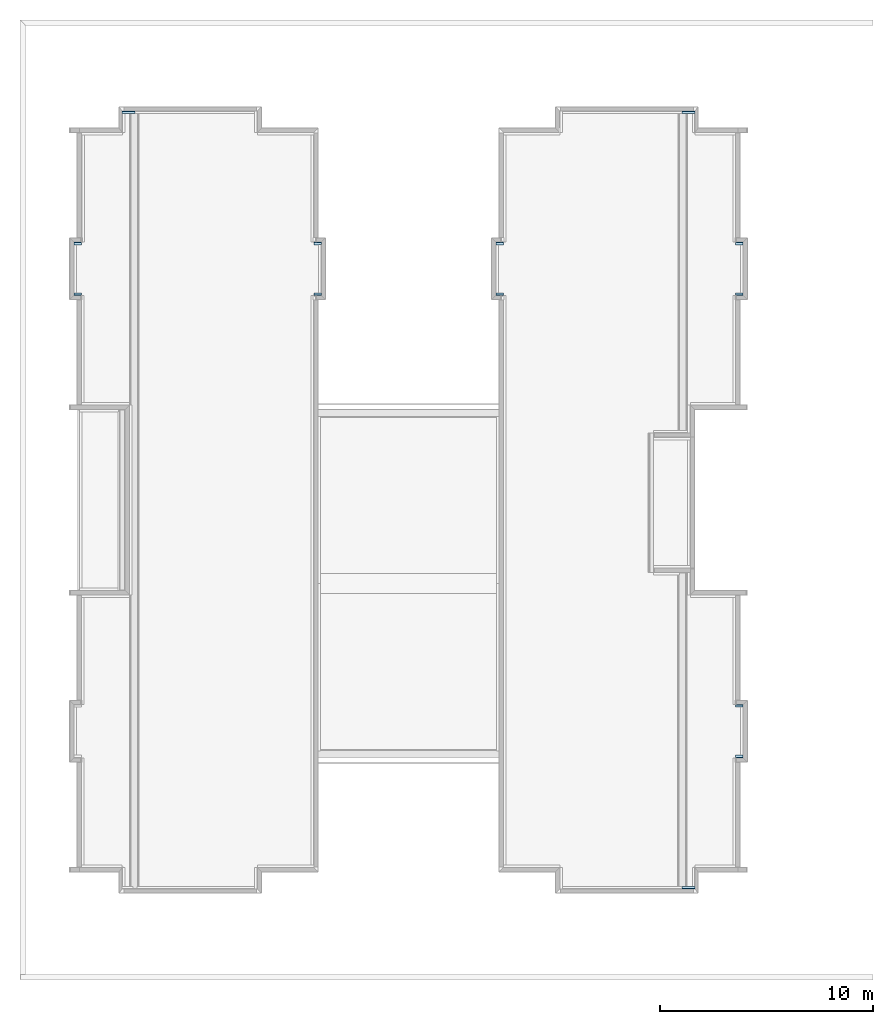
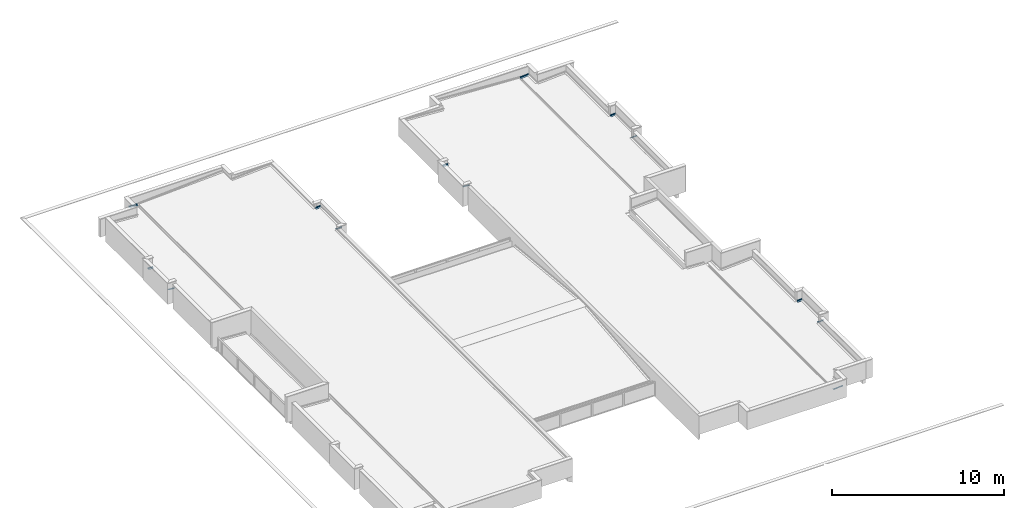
# One storey, part 15 of 25: 13 roofs.
"""IFC4 building model written with IfcOpenShell, lengths in metres."""

from ifc_helpers import new_model, entity, si_unit, converted_unit, derived_unit, direction, frame, origin_with_axes, place, context, subcontext, project, spatial, line, indexed_curve, outline, extrude, clip, halfspace, material, material_profile, profile_set, type_object, element, save


model = new_model("IFC4")

# Units and contexts
model_context = context("Model", 3, precision=1e-05, world=origin_with_axes(), true_north=direction((0.0, 1.0)))
body_context = subcontext(model_context, "Body", "Model", "MODEL_VIEW")
ifc_project = project(units=[si_unit("LENGTHUNIT", "METRE"), si_unit("AREAUNIT", "SQUARE_METRE"), si_unit("VOLUMEUNIT", "CUBIC_METRE"), converted_unit("PLANEANGLEUNIT", "DEGREE", entity("IfcPlaneAngleMeasure", 0.0174532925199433), si_unit("PLANEANGLEUNIT", "RADIAN"), dimensions=[0, 0, 0, 0, 0, 0, 0]), converted_unit("TIMEUNIT", "Year", entity("IfcTimeMeasure", 31557600.0), si_unit("TIMEUNIT", "SECOND"), dimensions=[0, 0, 1, 0, 0, 0, 0]), si_unit("MASSUNIT", "GRAM", prefix="KILO"), si_unit("THERMODYNAMICTEMPERATUREUNIT", "DEGREE_CELSIUS"), si_unit("LUMINOUSINTENSITYUNIT", "LUMEN"), si_unit("ENERGYUNIT", "JOULE", prefix="MEGA"), derived_unit("THERMALCONDUCTANCEUNIT", [(si_unit("POWERUNIT", "WATT"), 1), (si_unit("LENGTHUNIT", "METRE"), -1), (si_unit("THERMODYNAMICTEMPERATUREUNIT", "KELVIN"), -1)]), derived_unit("SPECIFICHEATCAPACITYUNIT", [(si_unit("ENERGYUNIT", "JOULE"), 1), (si_unit("MASSUNIT", "GRAM", prefix="KILO"), -1), (si_unit("THERMODYNAMICTEMPERATUREUNIT", "KELVIN"), -1)]), derived_unit("MASSDENSITYUNIT", [(si_unit("MASSUNIT", "GRAM", prefix="KILO"), 1), (si_unit("VOLUMEUNIT", "CUBIC_METRE"), -1)])], contexts=[model_context])

# Site, building, storey
site_placement = place(None, origin_with_axes())
site = spatial("IfcSite", under=ifc_project, at=site_placement, Name="PADRÃO", CompositionType="ELEMENT")
building_placement = place(site_placement, origin_with_axes())
building = spatial("IfcBuilding", under=site, at=building_placement, Name="CRECHE PRÉ-ESCOLA TIPO 2", CompositionType="ELEMENT")
storey_placement = place(building_placement, frame((0.0, 0.0, 3.26), z_axis=(0.0, 0.0, 1.0), x_axis=(1.0, 0.0, 0.0)))
storey = spatial("IfcBuildingStorey", under=building, at=storey_placement, Name="COBERTURA", CompositionType="ELEMENT", Elevation=3.26)

# Roofs
ifc_material = material(Name="RUFO EM CHAPA DE AÇO GALVANIZADO")
ifc_material_profile = material_profile(ifc_material, outline(indexed_curve([(-0.123242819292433, 0.0), (-0.123136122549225, -0.000994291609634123), (-0.01, 0.0111462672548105), (-0.01, 0.0811462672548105), (0.000794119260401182, 0.0919771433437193), (8.58116060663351e-05, 0.0926830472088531), (-0.011, 0.0815594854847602), (-0.011, 0.0120446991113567), (-0.123136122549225, 1.14495535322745e-05)], segments=[line(1, 2, 3, 4, 5, 6, 7, 8, 9, 1)])), Name="RUFO EM CHAPA DE AÇO GALVANIZADO")
ifc_profile_set = profile_set([ifc_material_profile], Name="FNDE-Rufo")
roof_type = type_object("IfcRoofType", Name="FNDE-Rufo 124 x 94", PredefinedType="NOTDEFINED")
roof_1_placement = place(storey_placement, frame((-6.0900072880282, 34.6011871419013, 0.820777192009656), z_axis=(0.0, 0.0, 1.0), x_axis=(0.0, 1.0, 0.0)))
element("IfcRoof", 1, at=roof_1_placement, inside=storey, type_object=roof_type, material=ifc_profile_set, Name="V01", PredefinedType="NOTDEFINED", context=body_context, shape_type="Clipping", body=[
    clip(clip(extrude(outline(indexed_curve([(-0.123242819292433, 0.0), (-0.123136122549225, -0.000994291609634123), (-0.01, 0.0111462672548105), (-0.01, 0.0811462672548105), (0.000794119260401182, 0.0919771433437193), (8.58116060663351e-05, 0.0926830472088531), (-0.011, 0.0815594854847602), (-0.011, 0.0120446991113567), (-0.123136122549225, 1.14495535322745e-05)], segments=[line(1, 2, 3, 4, 5, 6, 7, 8, 9, 1)])), frame((0.0, 0.36009274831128, -0.0215280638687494), z_axis=(0.0, -0.998217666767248, 0.0596782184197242), x_axis=(1.0, 0.0, 0.0)), (0.0, 0.0, 1.0), 0.371222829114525), halfspace(frame((0.0, 0.0, 0.0), z_axis=(0.0, 1.0, 0.0), x_axis=(0.0, 0.0, 1.0)), True)), halfspace(frame((0.0, 0.349624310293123, 0.0), z_axis=(0.0, -1.0, 0.0), x_axis=(0.0, 0.0, -1.0)), True)),
])
roof_2_placement = place(storey_placement, frame((-6.0900072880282, 32.1011857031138, 0.7406376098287), z_axis=(0.0, 0.0, 1.0), x_axis=(0.0, 1.0, 0.0)))
element("IfcRoof", 2, at=roof_2_placement, inside=storey, type_object=roof_type, material=ifc_profile_set, Name="V01", PredefinedType="NOTDEFINED", context=body_context, shape_type="Clipping", body=[
    clip(clip(extrude(outline(indexed_curve([(-0.123242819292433, 0.0), (-0.123136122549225, -0.000994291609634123), (-0.01, 0.0111462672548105), (-0.01, 0.0811462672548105), (0.000794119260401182, 0.0919771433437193), (8.58116060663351e-05, 0.0926830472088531), (-0.011, 0.0815594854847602), (-0.011, 0.0120446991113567), (-0.123136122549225, 1.14495535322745e-05)], segments=[line(1, 2, 3, 4, 5, 6, 7, 8, 9, 1)])), frame((0.0, 0.360516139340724, -0.021630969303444), z_axis=(0.0, 0.998204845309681, -0.0598922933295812), x_axis=(-1.0, 0.0, 0.0)), (0.0, 0.0, -1.0), 0.371689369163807), halfspace(frame((0.0, 0.0, 0.0), z_axis=(0.0, 1.0, 0.0), x_axis=(0.0, 0.0, 1.0)), True)), halfspace(frame((0.0, 0.350010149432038, 0.0), z_axis=(0.0, -1.0, 0.0), x_axis=(0.0, 0.0, -1.0)), True)),
])
roof_3_placement = place(storey_placement, frame((-6.08986537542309, 12.9001559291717, 0.820898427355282), z_axis=(0.0, 0.0, 1.0), x_axis=(0.0, 1.0, 0.0)))
element("IfcRoof", 3, at=roof_3_placement, inside=storey, type_object=roof_type, material=ifc_profile_set, Name="V01", PredefinedType="NOTDEFINED", context=body_context, shape_type="Clipping", body=[
    clip(clip(extrude(outline(indexed_curve([(-0.123242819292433, 0.0), (-0.123136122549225, -0.000994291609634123), (-0.01, 0.0111462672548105), (-0.01, 0.0811462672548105), (0.000794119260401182, 0.0919771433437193), (8.58116060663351e-05, 0.0926830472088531), (-0.011, 0.0815594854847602), (-0.011, 0.0120446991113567), (-0.123136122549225, 1.14495535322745e-05)], segments=[line(1, 2, 3, 4, 5, 6, 7, 8, 9, 1)])), frame((0.0, 0.360760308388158, -0.0216405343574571), z_axis=(0.0, -0.998205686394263, 0.0598782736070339), x_axis=(1.0, 0.0, 0.0)), (0.0, 0.0, 1.0), 0.371931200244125), halfspace(frame((0.0, 0.0, 0.0), z_axis=(0.0, 1.0, 0.0), x_axis=(0.0, 0.0, 1.0)), True)), halfspace(frame((0.0, 0.350256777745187, 0.0), z_axis=(0.0, -1.0, 0.0), x_axis=(0.0, 0.0, -1.0)), True)),
])
roof_4_placement = place(storey_placement, frame((-6.44012215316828, 10.4001432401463, 0.799879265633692), z_axis=(0.0, 0.0, 1.0), x_axis=(7.23972153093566e-05, -0.999999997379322, 0.0)))
element("IfcRoof", 4, at=roof_4_placement, inside=storey, type_object=roof_type, material=ifc_profile_set, Name="V01", PredefinedType="NOTDEFINED", context=body_context, shape_type="Clipping", body=[
    clip(clip(extrude(outline(indexed_curve([(-0.123242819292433, 0.0), (-0.123136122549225, -0.000994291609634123), (-0.01, 0.0111462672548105), (-0.01, 0.0811462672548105), (0.000794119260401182, 0.0919771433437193), (8.58116060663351e-05, 0.0926830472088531), (-0.011, 0.0815594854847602), (-0.011, 0.0120446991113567), (-0.123136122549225, 1.14495535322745e-05)], segments=[line(1, 2, 3, 4, 5, 6, 7, 8, 9, 1)])), frame((0.0, 0.360878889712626, 0.021645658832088), z_axis=(0.0, -0.99820601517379, -0.0598727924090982), x_axis=(1.0, 0.0, 0.0)), (0.0, 0.0, 1.0), 0.372048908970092), halfspace(frame((0.0, 0.0, 0.0), z_axis=(0.0, 1.0, 0.0), x_axis=(0.0, 0.0, 1.0)), True)), halfspace(frame((0.0, 0.35037632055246, 0.0), z_axis=(0.0, -1.0, 0.0), x_axis=(0.0, 0.0, -1.0)), True)),
])
roof_5_placement = place(storey_placement, frame((-8.35056755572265, 40.7501559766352, 0.682702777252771), z_axis=(0.0, 0.0, 1.0), x_axis=(0.0, 1.0, 0.0)))
element("IfcRoof", 5, at=roof_5_placement, inside=storey, type_object=roof_type, material=ifc_profile_set, Name="V01", PredefinedType="NOTDEFINED", context=body_context, shape_type="Clipping", body=[
    clip(clip(extrude(outline(indexed_curve([(-0.123242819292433, 0.0), (-0.123136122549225, -0.000994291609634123), (-0.01, 0.0111462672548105), (-0.01, 0.0811462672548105), (0.000794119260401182, 0.0919771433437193), (8.58116060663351e-05, 0.0926830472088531), (-0.011, 0.0815594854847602), (-0.011, 0.0120446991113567), (-0.123136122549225, 1.14495535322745e-05)], segments=[line(1, 2, 3, 4, 5, 6, 7, 8, 9, 1)])), frame((0.0, 0.61857496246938, -0.0371144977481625), z_axis=(0.0, -0.998204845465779, 0.0598922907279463), x_axis=(1.0, 0.0, 0.0)), (0.0, 0.0, 1.0), 0.630212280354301), halfspace(frame((0.0, 0.0, 0.0), z_axis=(0.0, 1.0, 0.0), x_axis=(0.0, 0.0, 1.0)), True)), halfspace(frame((0.0, 0.608068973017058, 0.0), z_axis=(0.0, -1.0, 0.0), x_axis=(0.0, 0.0, -1.0)), True)),
])
roof_6_placement = place(storey_placement, frame((-8.3505758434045, 4.25022290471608, 0.681453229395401), z_axis=(0.0, 0.0, 1.0), x_axis=(-3.9103813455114e-06, 0.999999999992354, 0.0)))
element("IfcRoof", 6, at=roof_6_placement, inside=storey, type_object=roof_type, material=ifc_profile_set, Name="V01", PredefinedType="NOTDEFINED", context=body_context, shape_type="Clipping", body=[
    clip(clip(extrude(outline(indexed_curve([(-0.123242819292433, 0.0), (-0.123136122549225, -0.000994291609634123), (-0.01, 0.0111462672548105), (-0.01, 0.0811462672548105), (0.000794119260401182, 0.0919771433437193), (8.58116060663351e-05, 0.0926830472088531), (-0.011, 0.0815594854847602), (-0.011, 0.0120446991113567), (-0.123136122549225, 1.14495535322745e-05)], segments=[line(1, 2, 3, 4, 5, 6, 7, 8, 9, 1)])), frame((0.0, 0.616321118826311, -0.0369792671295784), z_axis=(0.0, 0.998204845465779, -0.0598922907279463), x_axis=(-1.0, 0.0, 0.0)), (0.0, 0.0, -1.0), 0.627954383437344), halfspace(frame((0.0, 0.0, 0.0), z_axis=(0.0, 1.0, 0.0), x_axis=(0.0, 0.0, 1.0)), True)), halfspace(frame((0.0, 0.60581512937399, 0.0), z_axis=(0.0, -1.0, 0.0), x_axis=(0.0, 0.0, -1.0)), True)),
])
roof_7_placement = place(storey_placement, frame((-34.6284807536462, 40.7500006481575, 0.649479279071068), z_axis=(0.0, 0.0, 1.0), x_axis=(0.0, 1.0, 0.0)))
element("IfcRoof", 7, at=roof_7_placement, inside=storey, type_object=roof_type, material=ifc_profile_set, Name="V01", PredefinedType="NOTDEFINED", context=body_context, shape_type="Clipping", body=[
    clip(clip(extrude(outline(indexed_curve([(-0.123242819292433, 0.0), (-0.123136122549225, -0.000994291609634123), (-0.01, 0.0111462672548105), (-0.01, 0.0811462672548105), (0.000794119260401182, 0.0919771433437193), (8.58116060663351e-05, 0.0926830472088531), (-0.011, 0.0815594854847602), (-0.011, 0.0120446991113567), (-0.123136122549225, 1.14495535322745e-05)], segments=[line(1, 2, 3, 4, 5, 6, 7, 8, 9, 1)])), frame((0.0, 0.608442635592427, 0.0345929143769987), z_axis=(0.0, -0.998387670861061, -0.0567631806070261), x_axis=(1.0, 0.0, 0.0)), (0.0, 0.0, 1.0), 0.619398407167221), halfspace(frame((0.0, 0.0, 0.0), z_axis=(0.0, 1.0, 0.0), x_axis=(0.0, 0.0, 1.0)), True)), halfspace(frame((0.0, 0.598485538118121, 0.0), z_axis=(0.0, -1.0, 0.0), x_axis=(0.0, 0.0, -1.0)), True)),
])
roof_8_placement = place(storey_placement, frame((-37.4933257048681, 34.599937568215, 0.821470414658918), z_axis=(0.0, 0.0, 1.0), x_axis=(0.0, -1.0, 0.0)))
element("IfcRoof", 8, at=roof_8_placement, inside=storey, type_object=roof_type, material=ifc_profile_set, Name="V01", PredefinedType="NOTDEFINED", context=body_context, shape_type="Clipping", body=[
    clip(clip(extrude(outline(indexed_curve([(-0.123242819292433, 0.0), (-0.123136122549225, -0.000994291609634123), (-0.01, 0.0111462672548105), (-0.01, 0.0811462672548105), (0.000794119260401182, 0.0919771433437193), (8.58116060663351e-05, 0.0926830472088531), (-0.011, 0.0815594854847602), (-0.011, 0.0120446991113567), (-0.123136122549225, 1.14495535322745e-05)], segments=[line(1, 2, 3, 4, 5, 6, 7, 8, 9, 1)])), frame((0.0, 0.371092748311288, -0.0221856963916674), z_axis=(0.0, 0.998217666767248, -0.0596782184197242), x_axis=(-1.0, 0.0, 0.0)), (0.0, 0.0, -1.0), 0.382242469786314), halfspace(frame((0.0, 0.0, 0.0), z_axis=(0.0, 1.0, 0.0), x_axis=(0.0, 0.0, 1.0)), True)), halfspace(frame((0.0, 0.36062431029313, 0.0), z_axis=(0.0, -1.0, 0.0), x_axis=(0.0, 0.0, -1.0)), True)),
])
roof_9_placement = place(storey_placement, frame((-37.4933257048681, 32.0999361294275, 0.822392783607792), z_axis=(0.0, 0.0, 1.0), x_axis=(0.0, -1.0, 0.0)))
element("IfcRoof", 9, at=roof_9_placement, inside=storey, type_object=roof_type, material=ifc_profile_set, Name="V01", PredefinedType="NOTDEFINED", context=body_context, shape_type="Clipping", body=[
    clip(clip(extrude(outline(indexed_curve([(-0.123242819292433, 0.0), (-0.123136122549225, -0.000994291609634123), (-0.01, 0.0111462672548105), (-0.01, 0.0811462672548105), (0.000794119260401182, 0.0919771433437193), (8.58116060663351e-05, 0.0926830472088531), (-0.011, 0.0815594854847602), (-0.011, 0.0120446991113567), (-0.123136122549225, 1.14495535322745e-05)], segments=[line(1, 2, 3, 4, 5, 6, 7, 8, 9, 1)])), frame((0.0, 0.360137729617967, -0.0216082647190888), z_axis=(0.0, -0.998204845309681, 0.0598922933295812), x_axis=(1.0, 0.0, 0.0)), (0.0, 0.0, 1.0), 0.371310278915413), halfspace(frame((0.0, 0.0, 0.0), z_axis=(0.0, 1.0, 0.0), x_axis=(0.0, 0.0, 1.0)), True)), halfspace(frame((0.0, 0.349631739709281, 0.0), z_axis=(0.0, -1.0, 0.0), x_axis=(0.0, 0.0, -1.0)), True)),
])
roof_10_placement = place(storey_placement, frame((-25.8877493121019, 34.6019184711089, 1.19564920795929), z_axis=(0.0, 0.0, 1.0), x_axis=(-0.00498776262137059, 0.999987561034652, 0.0)))
element("IfcRoof", 10, at=roof_10_placement, inside=storey, type_object=roof_type, material=ifc_profile_set, Name="V14", PredefinedType="NOTDEFINED", context=body_context, shape_type="Clipping", body=[
    clip(clip(extrude(outline(indexed_curve([(-0.123242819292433, 0.0), (-0.123136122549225, -0.000994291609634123), (-0.01, 0.0111462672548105), (-0.01, 0.0811462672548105), (0.000794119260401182, 0.0919771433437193), (8.58116060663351e-05, 0.0926830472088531), (-0.011, 0.0815594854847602), (-0.011, 0.0120446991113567), (-0.123136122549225, 1.14495535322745e-05)], segments=[line(1, 2, 3, 4, 5, 6, 7, 8, 9, 1)])), frame((0.0, 0.357239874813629, -0.0214341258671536), z_axis=(0.0, -0.99820489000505, 0.0598915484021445), x_axis=(1.0, 0.0, 0.0)), (0.0, 0.0, 1.0), 0.368407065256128), halfspace(frame((0.0, 0.0, 0.0), z_axis=(0.0, 1.0, 0.0), x_axis=(0.0, 0.0, 1.0)), True)), halfspace(frame((0.0, 0.34673401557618, 0.0), z_axis=(0.0, -1.0, 0.0), x_axis=(0.0, 0.0, -1.0)), True)),
])
roof_11_placement = place(storey_placement, frame((-26.2344790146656, 32.1001889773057, 1.17484542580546), z_axis=(0.0, 0.0, 1.0), x_axis=(0.0, -1.0, 0.0)))
element("IfcRoof", 11, at=roof_11_placement, inside=storey, type_object=roof_type, material=ifc_profile_set, Name="V12", PredefinedType="NOTDEFINED", context=body_context, shape_type="Clipping", body=[
    clip(clip(extrude(outline(indexed_curve([(-0.123242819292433, 0.0), (-0.123136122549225, -0.000994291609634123), (-0.01, 0.0111462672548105), (-0.01, 0.0811462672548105), (0.000794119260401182, 0.0919771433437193), (8.58116060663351e-05, 0.0926830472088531), (-0.011, 0.0815594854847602), (-0.011, 0.0120446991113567), (-0.123136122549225, 1.14495535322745e-05)], segments=[line(1, 2, 3, 4, 5, 6, 7, 8, 9, 1)])), frame((0.0, 0.357235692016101, 0.0214341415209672), z_axis=(0.0, -0.998204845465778, -0.0598922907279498), x_axis=(1.0, 0.0, 0.0)), (0.0, 0.0, 1.0), 0.368403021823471), halfspace(frame((0.0, 0.0, 0.0), z_axis=(0.0, 1.0, 0.0), x_axis=(0.0, 0.0, 1.0)), True)), halfspace(frame((0.0, 0.346729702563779, 0.0), z_axis=(0.0, -1.0, 0.0), x_axis=(0.0, 0.0, -1.0)), True)),
])
roof_12_placement = place(storey_placement, frame((-17.3400506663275, 34.6001673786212, 1.17333433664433), z_axis=(0.0, 0.0, 1.0), x_axis=(0.0, 1.0, 0.0)))
element("IfcRoof", 12, at=roof_12_placement, inside=storey, type_object=roof_type, material=ifc_profile_set, Name="V04", PredefinedType="NOTDEFINED", context=body_context, shape_type="Clipping", body=[
    clip(clip(extrude(outline(indexed_curve([(-0.123242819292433, 0.0), (-0.123136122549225, -0.000994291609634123), (-0.01, 0.0111462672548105), (-0.01, 0.0811462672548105), (0.000794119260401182, 0.0919771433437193), (8.58116060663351e-05, 0.0926830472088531), (-0.011, 0.0815594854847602), (-0.011, 0.0120446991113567), (-0.123136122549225, 1.14495535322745e-05)], segments=[line(1, 2, 3, 4, 5, 6, 7, 8, 9, 1)])), frame((0.0, 0.3604658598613, 0.0216238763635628), z_axis=(0.0, -0.998205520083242, -0.0598810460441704), x_axis=(1.0, 0.0, 0.0)), (0.0, 0.0, 1.0), 0.371636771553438), halfspace(frame((0.0, 0.0, 0.0), z_axis=(0.0, 1.0, 0.0), x_axis=(0.0, 0.0, 1.0)), True)), halfspace(frame((0.0, 0.349961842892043, 0.0), z_axis=(0.0, -1.0, 0.0), x_axis=(0.0, 0.0, -1.0)), True)),
])
roof_13_placement = place(storey_placement, frame((-17.6900125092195, 32.1001883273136, 1.19432809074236), z_axis=(0.0, 0.0, 1.0), x_axis=(0.0, -1.0, 0.0)))
element("IfcRoof", 13, at=roof_13_placement, inside=storey, type_object=roof_type, material=ifc_profile_set, Name="V06", PredefinedType="NOTDEFINED", context=body_context, shape_type="Clipping", body=[
    clip(clip(extrude(outline(indexed_curve([(-0.123242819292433, 0.0), (-0.123136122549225, -0.000994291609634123), (-0.01, 0.0111462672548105), (-0.01, 0.0811462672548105), (0.000794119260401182, 0.0919771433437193), (8.58116060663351e-05, 0.0926830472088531), (-0.011, 0.0815594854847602), (-0.011, 0.0120446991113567), (-0.123136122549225, 1.14495535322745e-05)], segments=[line(1, 2, 3, 4, 5, 6, 7, 8, 9, 1)])), frame((0.0, 0.360467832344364, -0.0216280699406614), z_axis=(0.0, -0.998204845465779, 0.0598922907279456), x_axis=(1.0, 0.0, 0.0)), (0.0, 0.0, 1.0), 0.37164097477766), halfspace(frame((0.0, 0.0, 0.0), z_axis=(0.0, 1.0, 0.0), x_axis=(0.0, 0.0, 1.0)), True)), halfspace(frame((0.0, 0.349961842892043, 0.0), z_axis=(0.0, -1.0, 0.0), x_axis=(0.0, 0.0, -1.0)), True)),
])

save(model, "model.ifc")
